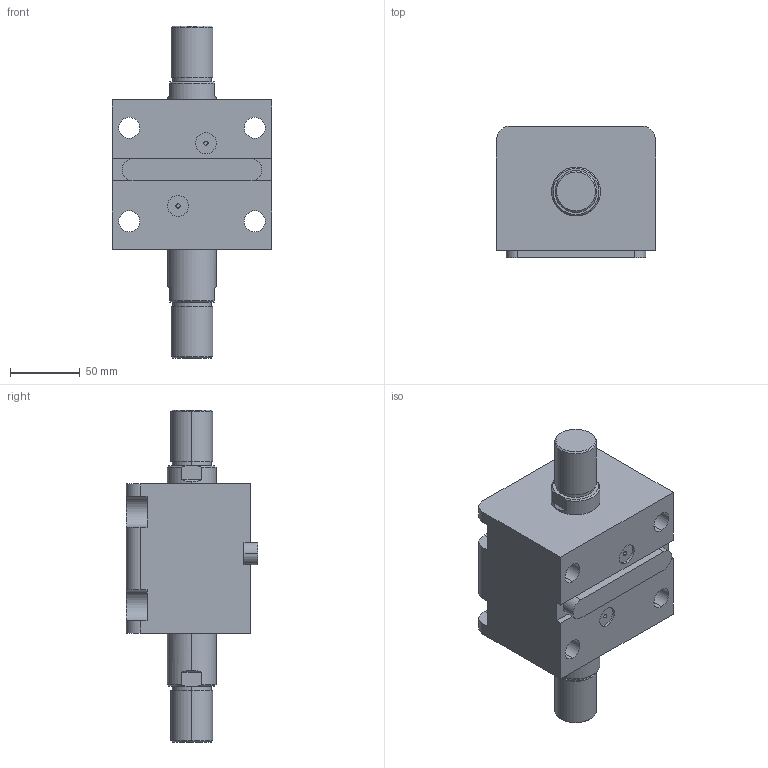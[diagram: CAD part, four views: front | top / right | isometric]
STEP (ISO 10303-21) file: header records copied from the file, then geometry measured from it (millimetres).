
FILE_DESCRIPTION (( 'STEP AP203' ), '1' );
FILE_NAME ('HTB-LWM63-25W.STEP', '2020-12-25T03:40:32', ( '微软用户' ), ( '微软中国' ), 'SwSTEP 2.0', 'SolidWorks 2012', '' );
FILE_SCHEMA (( 'CONFIG_CONTROL_DESIGN' ));
Length unit declared in the file: millimetre
Products named in the file (4): HTB-LWM63-25掛极; HTB-LWM63-瑩; HTB-LWM63-25W活塞杆; HTB-LWM63-25W
Assembly tree (3 placements, depth 2):
  HTB-LWM63-25W
    HTB-LWM63-25掛极
    HTB-LWM63-25W活塞杆
    HTB-LWM63-瑩
Bounding box: 114 x 94.5 x 238 mm (x, y, z)
Volume: 1060135.1 mm3; surface area: 134989.2 mm2
Topology: 3 solids, 3 shells, 113 faces, 273 edges, 178 vertices
Faces by surface type: cylinder 49, plane 48, torus 8, cone 8
Entity records: 3783 total; most frequent: CARTESIAN_POINT 626, DIRECTION 617, ORIENTED_EDGE 546, EDGE_CURVE 273, AXIS2_PLACEMENT_3D 241, VERTEX_POINT 178, EDGE_LOOP 135, LINE 135
